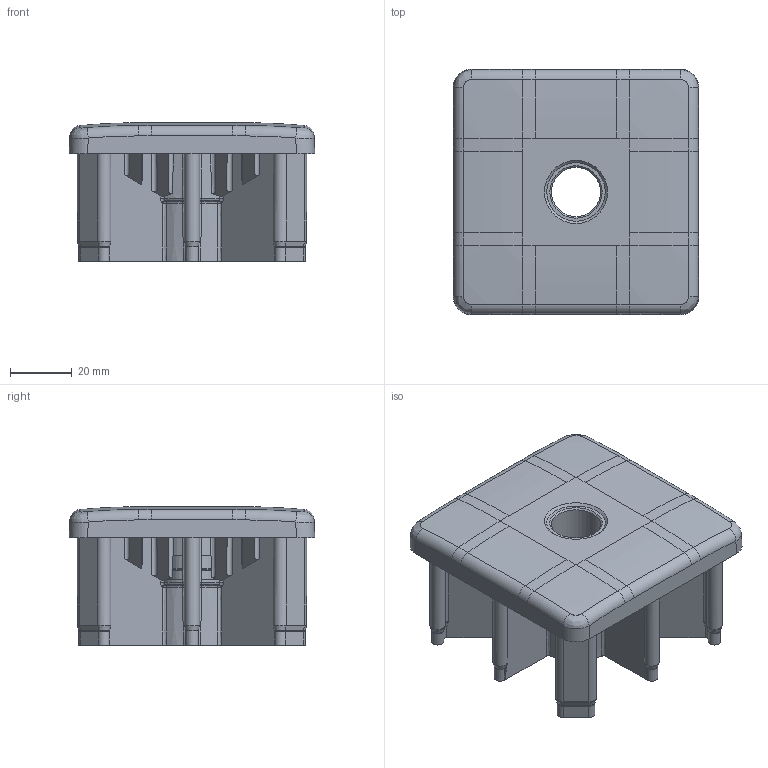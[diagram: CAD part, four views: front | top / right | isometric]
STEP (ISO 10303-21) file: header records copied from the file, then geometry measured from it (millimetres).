
FILE_DESCRIPTION((''),'2;1');
FILE_NAME('Y:\DISEGNI\LIBRERIE_3D\PIEDI\LEVEL_STEP\68_82082.STP','2013-01-24T16:54:28',(''),(''),'STEP Write','Mastercam X5 ... CNC Software, Inc.','');
FILE_SCHEMA(('AUTOMOTIVE_DESIGN'));
Length unit declared in the file: millimetre
Products named in the file (1): None
Bounding box: 79.8 x 79.8 x 45 mm (x, y, z)
Volume: 113523.9 mm3; surface area: 44268.9 mm2
Topology: 2 solids, 20 shells, 724 faces, 1826 edges, 1112 vertices
Faces by surface type: plane 240, cylinder 168, bspline 167, torus 68, cone 43, sphere 38
Full cylindrical faces by diameter (mm): 16 x1, 16.5 x1, 19 x2, 23 x1, 24 x1
Entity records: 28630 total; most frequent: CARTESIAN_POINT 12944, ORIENTED_EDGE 3702, DIRECTION 2810, EDGE_CURVE 1833, VERTEX_POINT 1109, AXIS2_PLACEMENT_3D 1048, EDGE_LOOP 742, ADVANCED_FACE 724
